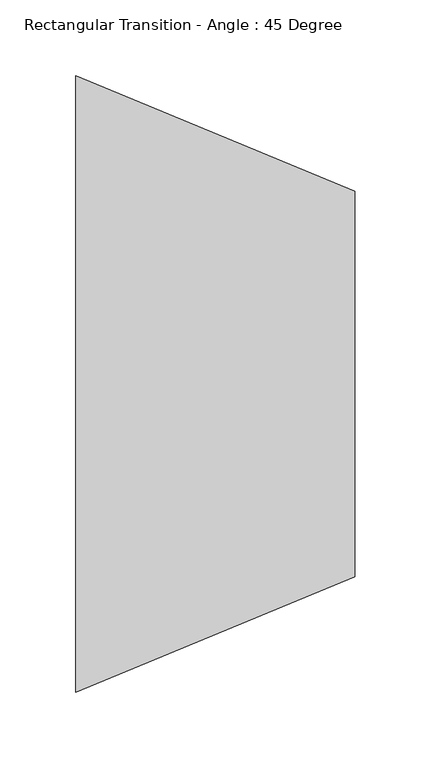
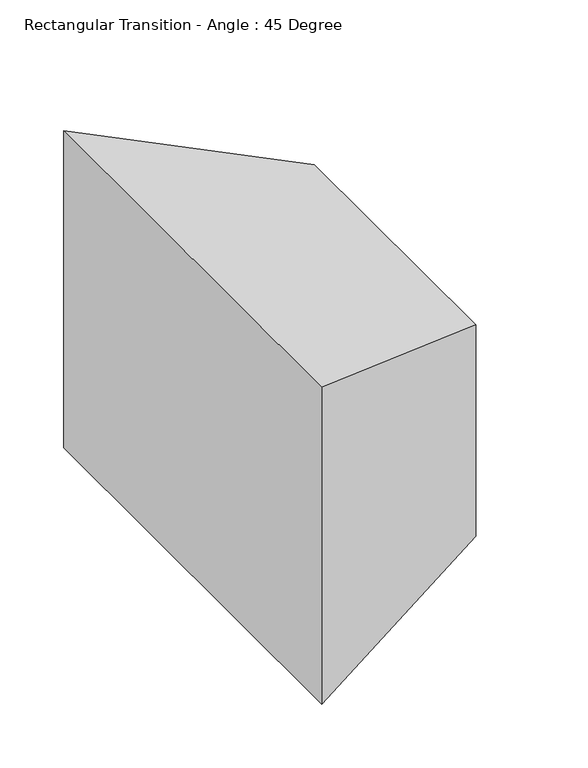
"""IFC4 building model written with IfcOpenShell, lengths in millimetres: duct fitting geometry, Rectangular Transition - Angle : 45 Degree."""

from ifc_helpers import new_model, si_unit, origin, place, context, project, spatial, faceted_brep, source, transform, mapped, element, save


def rectangular_transition_angle_45_degree_591ca4bc(model_context):
    return source(origin(), model_context, "Body", "Brep", [
        faceted_brep([(183.9630735, -127.0, 101.6), (183.9630735, -127.0, -101.6), (183.9630735, 127.0, -101.6), (183.9630735, 127.0, 101.6), (0.0, -203.2, 152.4), (0.0, 203.2, 152.4), (0.0, 203.2, -152.4), (0.0, -203.2, -152.4)], [[[0, 1, 2, 3]], [[4, 5, 6, 7]], [[4, 7, 1, 0]], [[7, 6, 2, 1]], [[6, 5, 3, 2]], [[5, 4, 0, 3]]]),
    ])


if __name__ == "__main__":
    model = new_model("IFC4")
    model_context = context("Model", 3, world=origin())
    ifc_project = project(units=[si_unit("LENGTHUNIT", "METRE", prefix="MILLI")], contexts=[model_context])
    site = spatial("IfcSite", under=ifc_project)
    building = spatial("IfcBuilding", under=site)
    placement = place(None, origin())
    rectangular_transition_angle_45_degree_shape = rectangular_transition_angle_45_degree_591ca4bc(model_context)
    element("IfcDuctFitting", 1, ObjectType="Rectangular Transition - Angle : 45 Degree", at=placement, inside=building, context=model_context, shape_type="MappedRepresentation", body=[
        mapped(rectangular_transition_angle_45_degree_shape, transform((0.0, 0.0, 0.0), x_axis=(1.0, 0.0, 0.0), y_axis=(0.0, 1.0, 0.0), z_axis=(0.0, 0.0, 1.0))),
    ])
    save(model, "model.ifc")
